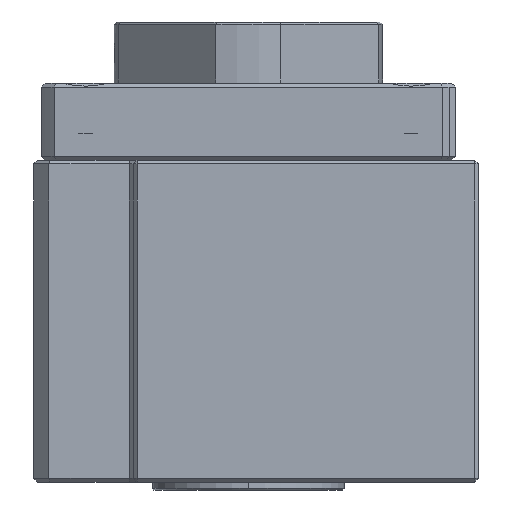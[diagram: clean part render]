
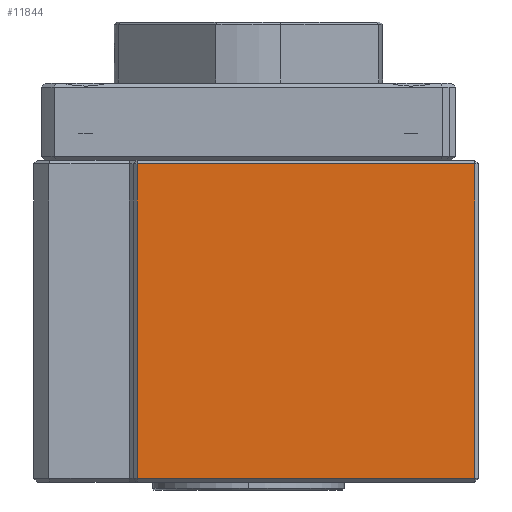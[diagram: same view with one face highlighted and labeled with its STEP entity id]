
A CAD part, left-side view. The second image highlights one B-rep face of the part: STEP entity #11844.
In plain terms, the highlighted planar face has unit normal (-1, 0, 0).
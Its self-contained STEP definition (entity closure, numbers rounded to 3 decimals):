
#643 = VECTOR ( 'NONE', #3772, 1000. ) ;
#755 = VECTOR ( 'NONE', #3781, 1000. ) ;
#852 = VECTOR ( 'NONE', #3775, 1000. ) ;
#1023 = VECTOR ( 'NONE', #3778, 1000. ) ;
#2588 = EDGE_LOOP ( 'NONE', ( #7381, #7383, #7382, #7384 ) ) ;
#2883 = CARTESIAN_POINT ( 'NONE',  ( -47.5, -29.5, -20.5 ) ) ;
#2989 = CARTESIAN_POINT ( 'NONE',  ( -47.5, 14.5, 20.5 ) ) ;
#3098 = CARTESIAN_POINT ( 'NONE',  ( -47.5, 14.5, -20.5 ) ) ;
#3134 = CARTESIAN_POINT ( 'NONE',  ( -47.5, -29.5, 20.5 ) ) ;
#3770 = LINE ( 'NONE', #3771, #643 ) ;
#3771 = CARTESIAN_POINT ( 'NONE',  ( -47.5, 15., -20.5 ) ) ;
#3772 = DIRECTION ( 'NONE',  ( 0., -1., 0. ) ) ;
#3773 = LINE ( 'NONE', #3774, #852 ) ;
#3774 = CARTESIAN_POINT ( 'NONE',  ( -47.5, 14.5, 21. ) ) ;
#3775 = DIRECTION ( 'NONE',  ( 0., 0., -1. ) ) ;
#3776 = LINE ( 'NONE', #3777, #1023 ) ;
#3777 = CARTESIAN_POINT ( 'NONE',  ( -47.5, -29.5, 21. ) ) ;
#3778 = DIRECTION ( 'NONE',  ( 0., 0., 1. ) ) ;
#3779 = LINE ( 'NONE', #3780, #755 ) ;
#3780 = CARTESIAN_POINT ( 'NONE',  ( -47.5, 15., 20.5 ) ) ;
#3781 = DIRECTION ( 'NONE',  ( 0., 1., 0. ) ) ;
#5725 = PLANE ( 'NONE',  #9696 ) ;
#5726 = CARTESIAN_POINT ( 'NONE',  ( -47.5, 15., 21. ) ) ;
#5727 = DIRECTION ( 'NONE',  ( 1., 0., 0. ) ) ;
#5728 = DIRECTION ( 'NONE',  ( 0., 1., 0. ) ) ;
#7381 = ORIENTED_EDGE ( 'NONE', *, *, #11226, .T. ) ;
#7382 = ORIENTED_EDGE ( 'NONE', *, *, #11227, .T. ) ;
#7383 = ORIENTED_EDGE ( 'NONE', *, *, #11225, .T. ) ;
#7384 = ORIENTED_EDGE ( 'NONE', *, *, #11228, .T. ) ;
#8658 = VERTEX_POINT ( 'NONE', #2883 ) ;
#8879 = VERTEX_POINT ( 'NONE', #2989 ) ;
#9171 = VERTEX_POINT ( 'NONE', #3098 ) ;
#9244 = VERTEX_POINT ( 'NONE', #3134 ) ;
#9693 = FACE_OUTER_BOUND ( 'NONE', #2588, .T. ) ;
#9696 = AXIS2_PLACEMENT_3D ( 'NONE', #5726, #5727, #5728 ) ;
#11225 = EDGE_CURVE ( 'NONE', #9171, #8658, #3770, .T. ) ;
#11226 = EDGE_CURVE ( 'NONE', #8879, #9171, #3773, .T. ) ;
#11227 = EDGE_CURVE ( 'NONE', #8658, #9244, #3776, .T. ) ;
#11228 = EDGE_CURVE ( 'NONE', #9244, #8879, #3779, .T. ) ;
#11844 = ADVANCED_FACE ( 'NONE', ( #9693 ), #5725, .F. ) ;
